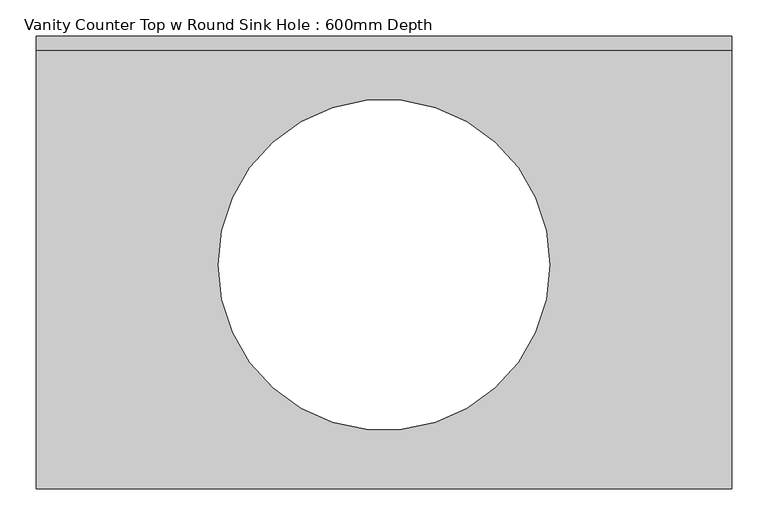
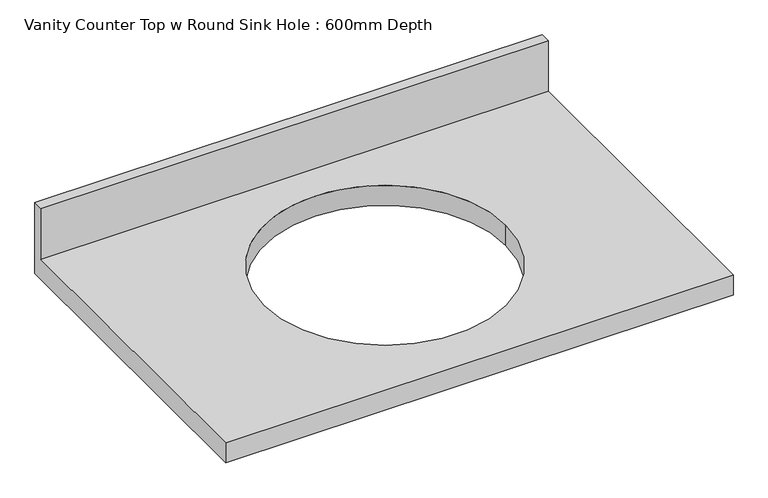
"""IFC4 building model written with IfcOpenShell, lengths in millimetres: furniture geometry, Vanity Counter Top w Round Sink Hole : 600mm Depth."""

from ifc_helpers import new_model, si_unit, frame, origin, place, context, project, spatial, polyline, circle_curve, source, transform, mapped, element, save
from ifc_brep_helpers import plane_surface, revolved_surface, advanced_brep


def vanity_counter_top_w_round_sink_hole_600mm_depth_4de5aa83(model_context):
    return source(origin(), model_context, "Body", "AdvancedBrep", [
        advanced_brep(
        [(-1327.4622951, 0.0, 851.6), (-1327.4622951, -19.05, 851.6), (-367.4622951, -19.05, 851.6), (-367.4622951, 0.0, 851.6), (-1327.4622951, 0.0, 710.0), (-1327.4622951, -625.0, 710.0), (-1327.4622951, -625.0, 750.0), (-1327.4622951, -19.05, 750.0), (-367.4622951, -19.05, 750.0), (-367.4622951, -625.0, 750.0), (-367.4622951, -625.0, 710.0), (-367.4622951, 0.0, 710.0), (-618.7622951, -316.0, 750.0), (-618.7622951, -316.0, 710.0), (-1076.1622951, -316.0, 710.0), (-1076.1622951, -316.0, 750.0)],
        [
            (0, 1),
            (1, 2),
            (2, 3),
            (3, 0),
            (0, 4),
            (4, 5),
            (5, 6),
            (6, 7),
            (7, 1),
            (7, 8),
            (8, 2),
            (8, 9),
            (9, 10),
            (10, 11),
            (11, 3),
            (11, 4),
            (12, 13),
            (13, 14, circle_curve(frame((-847.4622951, -316.0, 710.0), z_axis=(0.0, 0.0, -1.0), x_axis=(1.0, 0.0, 0.0)), 228.7)),
            (14, 15),
            (15, 12, circle_curve(frame((-847.4622951, -316.0, 750.0), z_axis=(0.0, 0.0, 1.0), x_axis=(1.0, 0.0, 0.0)), 228.7)),
            (12, 15, circle_curve(frame((-847.4622951, -316.0, 750.0), z_axis=(0.0, 0.0, 1.0), x_axis=(1.0, 0.0, 0.0)), 228.7)),
            (14, 13, circle_curve(frame((-847.4622951, -316.0, 710.0), z_axis=(0.0, 0.0, -1.0), x_axis=(1.0, 0.0, 0.0)), 228.7)),
            (6, 9),
            (10, 5),
        ],
        [
            plane_surface(frame((-1327.4622951, 0.0, 851.6), z_axis=(0.0, 0.0, 1.0), x_axis=(0.0, -1.0, 0.0))),
            plane_surface(frame((-1327.4622951, 0.0, 851.6), z_axis=(-1.0, 0.0, 0.0), x_axis=(0.0, 0.0, -1.0))),
            plane_surface(frame((-1327.4622951, -19.05, 851.6), z_axis=(0.0, -1.0, 0.0), x_axis=(0.0, 0.0, -1.0))),
            plane_surface(frame((-367.4622951, -19.05, 851.6), z_axis=(1.0, 0.0, 0.0), x_axis=(0.0, 0.0, -1.0))),
            plane_surface(frame((-367.4622951, 0.0, 851.6), z_axis=(0.0, 1.0, 0.0), x_axis=(0.0, 0.0, -1.0))),
            revolved_surface(polyline([(-618.7622951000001, -316.0, 750.0), (-618.7622951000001, -316.0, 710.0)]), (-847.4622951, -316.0, 710.0), (0.0, 0.0, 1.0)),
            plane_surface(frame((-1327.4622951, 0.0, 750.0), z_axis=(0.0, 0.0, 1.0), x_axis=(-1.0, 0.0, 0.0))),
            plane_surface(frame((-1327.4622951, 0.0, 710.0), z_axis=(0.0, 0.0, -1.0), x_axis=(1.0, 0.0, 0.0))),
            plane_surface(frame((-1327.4622951, -625.0, 750.0), z_axis=(0.0, -1.0, 0.0), x_axis=(0.0, 0.0, -1.0))),
        ],
        [
            (0, [[1, 2, 3, 4]]),
            (1, [[-1, 5, 6, 7, 8, 9]]),
            (2, [[-2, -9, 10, 11]]),
            (3, [[-3, -11, 12, 13, 14, 15]]),
            (4, [[-4, -15, 16, -5]]),
            (5, [[17, 18, 19, 20]]),
            (5, [[-17, 21, -19, 22]]),
            (6, [[23, -12, -10, -8], [-20, -21]]),
            (7, [[-14, 24, -6, -16], [-18, -22]]),
            (8, [[-23, -7, -24, -13]]),
        ],
    ),
    ])


if __name__ == "__main__":
    model = new_model("IFC4")
    model_context = context("Model", 3, world=origin())
    ifc_project = project(units=[si_unit("LENGTHUNIT", "METRE", prefix="MILLI")], contexts=[model_context])
    site = spatial("IfcSite", under=ifc_project)
    building = spatial("IfcBuilding", under=site)
    placement = place(None, origin())
    vanity_counter_top_w_round_sink_hole_600mm_depth_shape = vanity_counter_top_w_round_sink_hole_600mm_depth_4de5aa83(model_context)
    element("IfcFurniture", 1, ObjectType="Vanity Counter Top w Round Sink Hole : 600mm Depth", at=placement, inside=building, context=model_context, shape_type="MappedRepresentation", body=[
        mapped(vanity_counter_top_w_round_sink_hole_600mm_depth_shape, transform((0.0, 0.0, 0.0), x_axis=(1.0, 0.0, 0.0), y_axis=(0.0, 1.0, 0.0), z_axis=(0.0, 0.0, 1.0))),
    ])
    save(model, "model.ifc")
